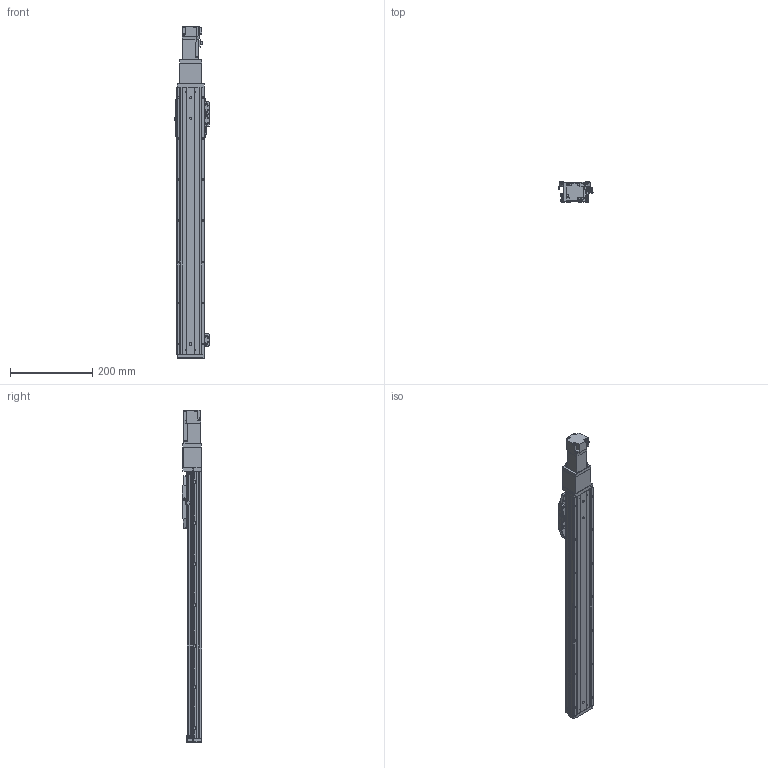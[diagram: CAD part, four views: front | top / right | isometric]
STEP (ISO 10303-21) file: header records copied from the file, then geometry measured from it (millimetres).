
FILE_DESCRIPTION (( 'STEP AP214' ), '1' );
FILE_NAME ('CTHA60-500-BC-M10-C4L.step', '2022-03-19T06:10:36', ( '微软用户' ), ( '微软中国' ), 'SwSTEP 2.0', 'SolidWorks 2020', '' );
FILE_SCHEMA (( 'AUTOMOTIVE_DESIGN' ));
Length unit declared in the file: millimetre
Products named in the file (19): GBT 70.3-M3℅6; CTHA60-013; CTHA60-002; CTHA60-005; CTHA60-017; GBT77-2000 M3×3; CTHA60-016; CTHA60-006; CTHA60-001_650; CTHA60-031; GB¨uT 70.2-M3¡Á6_M3¡Á6; CTHA60-021; GBT 70.1-M3℅6; CTHA60-027; HG-KR13（三菱）; CTHA60-004; CTHA60-500-BC-M10-C4L; EE_SX911P_R; GBT 70.1-M4×16
Assembly tree (57 placements, depth 2):
  CTHA60-500-BC-M10-C4L
    CTHA60-001_650
    CTHA60-004
    CTHA60-005
    GB¨uT 70.2-M3¡Á6_M3¡Á6  x10
    EE_SX911P_R  x3
    CTHA60-017  x3
    CTHA60-021  x2
    GBT 70.1-M4×16  x10
    GBT77-2000 M3×3  x6
    GBT 70.1-M3℅6  x6
    GBT 70.3-M3℅6  x6
    CTHA60-016  x2
    CTHA60-027
    CTHA60-013
    CTHA60-006
    HG-KR13（三菱）
    CTHA60-002
    CTHA60-031
Bounding box: 83.12 x 48 x 808.6 mm (x, y, z)
Volume: 1319163.3 mm3; surface area: 368751.6 mm2
Topology: 59 solids, 59 shells, 2455 faces, 5853 edges, 3587 vertices
Faces by surface type: plane 1426, cylinder 549, cone 360, torus 96, sphere 24
Entity records: 39110 total; most frequent: CARTESIAN_POINT 6592, DIRECTION 6492, ORIENTED_EDGE 6286, EDGE_CURVE 3143, VECTOR 2316, LINE 2316, AXIS2_PLACEMENT_3D 2088, VERTEX_POINT 1984
